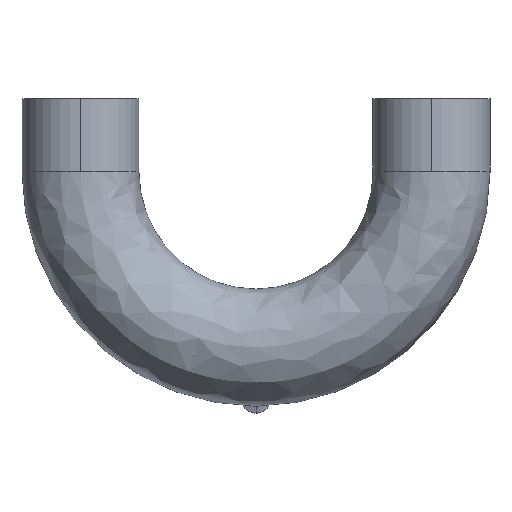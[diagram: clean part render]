
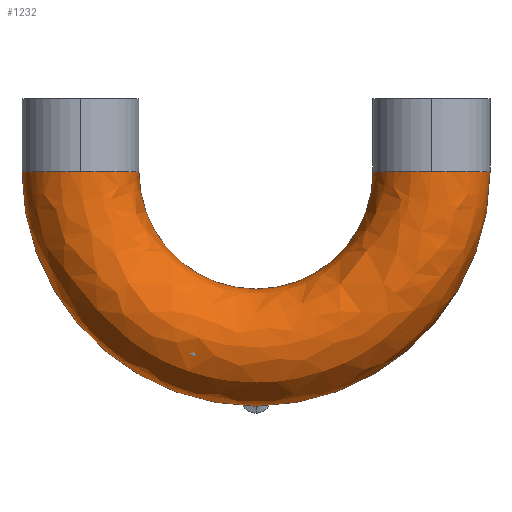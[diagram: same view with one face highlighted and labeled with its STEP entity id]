
A CAD part, top view. The second image highlights one B-rep face of the part: STEP entity #1232.
In plain terms, the highlighted free-form (B-spline) face has degree [3, 3] with [4, 4] control points.
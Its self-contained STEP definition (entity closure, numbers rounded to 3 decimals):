
#1 = CARTESIAN_POINT ( 'NONE',  ( -101.6, -50.8, 101.6 ) ) ;
#5 = CARTESIAN_POINT ( 'NONE',  ( 0., 152.4, 0. ) ) ;
#10 = CARTESIAN_POINT ( 'NONE',  ( 152.4, 152.4, 50.8 ) ) ;
#28 = DIRECTION ( 'NONE',  ( -1., 0., 0. ) ) ;
#38 = EDGE_CURVE ( 'NONE', #985, #997, #1075, .T. ) ;
#62 = EDGE_CURVE ( 'NONE', #407, #1187, #1026, .T. ) ;
#94 = AXIS2_PLACEMENT_3D ( 'NONE', #5, #927, #124 ) ;
#113 = DIRECTION ( 'NONE',  ( -1., 0., 0. ) ) ;
#116 = CARTESIAN_POINT ( 'NONE',  ( 203.2, -254., 0. ) ) ;
#121 = CARTESIAN_POINT ( 'NONE',  ( 101.6, 152.4, 0. ) ) ;
#124 = DIRECTION ( 'NONE',  ( -1., 0., 0. ) ) ;
#127 = DIRECTION ( 'NONE',  ( -1., 0., 0. ) ) ;
#140 = DIRECTION ( 'NONE',  ( 1., 0., 0. ) ) ;
#154 = CARTESIAN_POINT ( 'NONE',  ( 0., 152.4, 0. ) ) ;
#173 = AXIS2_PLACEMENT_3D ( 'NONE', #154, #286, #28 ) ;
#179 = DIRECTION ( 'NONE',  ( 0., -1., 0. ) ) ;
#187 = CARTESIAN_POINT ( 'NONE',  ( 152.4, 152.4, 0. ) ) ;
#197 = ORIENTED_EDGE ( 'NONE', *, *, #915, .F. ) ;
#203 = CIRCLE ( 'NONE', #173, 101.6 ) ;
#222 = DIRECTION ( 'NONE',  ( 0., -1., 0. ) ) ;
#247 = DIRECTION ( 'NONE',  ( 0., -1., 0. ) ) ;
#252 = CARTESIAN_POINT ( 'NONE',  ( -101.6, -50.8, 0. ) ) ;
#260 = CARTESIAN_POINT ( 'NONE',  ( -152.4, 152.4, 0. ) ) ;
#281 = ORIENTED_EDGE ( 'NONE', *, *, #437, .T. ) ;
#286 = DIRECTION ( 'NONE',  ( 0., 0., -1. ) ) ;
#340 = CARTESIAN_POINT ( 'NONE',  ( 101.6, 152.4, 0. ) ) ;
#375 = CARTESIAN_POINT ( 'NONE',  ( -203.2, -254., 0. ) ) ;
#384 = CARTESIAN_POINT ( 'NONE',  ( -203.2, 152.4, 0. ) ) ;
#407 = VERTEX_POINT ( 'NONE', #1437 ) ;
#437 = EDGE_CURVE ( 'NONE', #997, #485, #203, .T. ) ;
#485 = VERTEX_POINT ( 'NONE', #588 ) ;
#517 = CARTESIAN_POINT ( 'NONE',  ( 203.2, -254., 101.6 ) ) ;
#523 = DIRECTION ( 'NONE',  ( 0., 0., -1. ) ) ;
#531 = EDGE_CURVE ( 'NONE', #868, #1538, #1539, .T. ) ;
#547 = ORIENTED_EDGE ( 'NONE', *, *, #38, .T. ) ;
#577 = FACE_OUTER_BOUND ( 'NONE', #700, .T. ) ;
#588 = CARTESIAN_POINT ( 'NONE',  ( -101.6, 152.4, 0. ) ) ;
#610 = CIRCLE ( 'NONE', #665, 50.8 ) ;
#640 = DIRECTION ( 'NONE',  ( -1., 0., 0. ) ) ;
#650 = CARTESIAN_POINT ( 'NONE',  ( -203.2, 152.4, 101.6 ) ) ;
#665 = AXIS2_PLACEMENT_3D ( 'NONE', #260, #247, #127 ) ;
#700 = EDGE_LOOP ( 'NONE', ( #547, #281, #1045, #1555, #197, #1220, #1414 ) ) ;
#746 = EDGE_CURVE ( 'NONE', #485, #868, #610, .T. ) ;
#769 = DIRECTION ( 'NONE',  ( 0., -1., 0. ) ) ;
#776 = CARTESIAN_POINT ( 'NONE',  ( -152.4, 152.4, 0. ) ) ;
#786 = CARTESIAN_POINT ( 'NONE',  ( 101.6, -50.8, 101.6 ) ) ;
#790 = AXIS2_PLACEMENT_3D ( 'NONE', #776, #769, #640 ) ;
#800 = CIRCLE ( 'NONE', #94, 203.2 ) ;
#813 = AXIS2_PLACEMENT_3D ( 'NONE', #1018, #222, #1158 ) ;
#868 = VERTEX_POINT ( 'NONE', #1328 ) ;
#892 = AXIS2_PLACEMENT_3D ( 'NONE', #187, #179, #140 ) ;
#905 = CARTESIAN_POINT ( 'NONE',  ( 0., -50.8, 0. ) ) ;
#915 = EDGE_CURVE ( 'NONE', #1187, #1538, #800, .T. ) ;
#924 = CARTESIAN_POINT ( 'NONE',  ( -101.6, 152.4, 101.6 ) ) ;
#927 = DIRECTION ( 'NONE',  ( 0., 0., -1. ) ) ;
#985 = VERTEX_POINT ( 'NONE', #10 ) ;
#997 = VERTEX_POINT ( 'NONE', #340 ) ;
#1018 = CARTESIAN_POINT ( 'NONE',  ( 152.4, 152.4, 0. ) ) ;
#1026 = CIRCLE ( 'NONE', #1262, 203.2 ) ;
#1045 = ORIENTED_EDGE ( 'NONE', *, *, #746, .T. ) ;
#1057 = CARTESIAN_POINT ( 'NONE',  ( 101.6, -50.8, 0. ) ) ;
#1069 = EDGE_CURVE ( 'NONE', #407, #985, #1100, .T. ) ;
#1075 = CIRCLE ( 'NONE', #892, 50.8 ) ;
#1100 = CIRCLE ( 'NONE', #813, 50.8 ) ;
#1158 = DIRECTION ( 'NONE',  ( 1., 0., 0. ) ) ;
#1187 = VERTEX_POINT ( 'NONE', #905 ) ;
#1196 = CARTESIAN_POINT ( 'NONE',  ( 203.2, 152.4, 0. ) ) ;
#1198 = CARTESIAN_POINT ( 'NONE',  ( -101.6, 152.4, 0. ) ) ;
#1220 = ORIENTED_EDGE ( 'NONE', *, *, #62, .F. ) ;
#1232 = ADVANCED_FACE ( 'NONE', ( #577 ), #1603, .T. ) ;
#1262 = AXIS2_PLACEMENT_3D ( 'NONE', #1651, #523, #113 ) ;
#1328 = CARTESIAN_POINT ( 'NONE',  ( -152.4, 152.4, 50.8 ) ) ;
#1329 = CARTESIAN_POINT ( 'NONE',  ( 203.2, 152.4, 101.6 ) ) ;
#1414 = ORIENTED_EDGE ( 'NONE', *, *, #1069, .T. ) ;
#1437 = CARTESIAN_POINT ( 'NONE',  ( 203.2, 152.4, 0. ) ) ;
#1454 = CARTESIAN_POINT ( 'NONE',  ( -203.2, -254., 101.6 ) ) ;
#1475 = CARTESIAN_POINT ( 'NONE',  ( -203.2, 152.4, 0. ) ) ;
#1538 = VERTEX_POINT ( 'NONE', #1475 ) ;
#1539 = CIRCLE ( 'NONE', #790, 50.8 ) ;
#1555 = ORIENTED_EDGE ( 'NONE', *, *, #531, .T. ) ;
#1589 = CARTESIAN_POINT ( 'NONE',  ( 101.6, 152.4, 101.6 ) ) ;
#1603 =( BOUNDED_SURFACE ( )  B_SPLINE_SURFACE ( 3, 3, ( 
 ( #1196, #116, #375, #384 ),
 ( #1329, #517, #1454, #650 ),
 ( #1589, #786, #1, #924 ),
 ( #121, #1057, #252, #1198 ) ),
 .UNSPECIFIED., .F., .F., .F. ) 
 B_SPLINE_SURFACE_WITH_KNOTS ( ( 4, 4 ),
 ( 4, 4 ),
 ( 0., 1. ),
 ( 0., 1. ),
 .UNSPECIFIED. ) 
 GEOMETRIC_REPRESENTATION_ITEM ( )  RATIONAL_B_SPLINE_SURFACE ( (
 ( 1., 0.333, 0.333, 1.),
 ( 0.333, 0.111, 0.111, 0.333),
 ( 0.333, 0.111, 0.111, 0.333),
 ( 1., 0.333, 0.333, 1.) ) ) 
 REPRESENTATION_ITEM ( '' )  SURFACE ( )  );
#1651 = CARTESIAN_POINT ( 'NONE',  ( 0., 152.4, 0. ) ) ;
